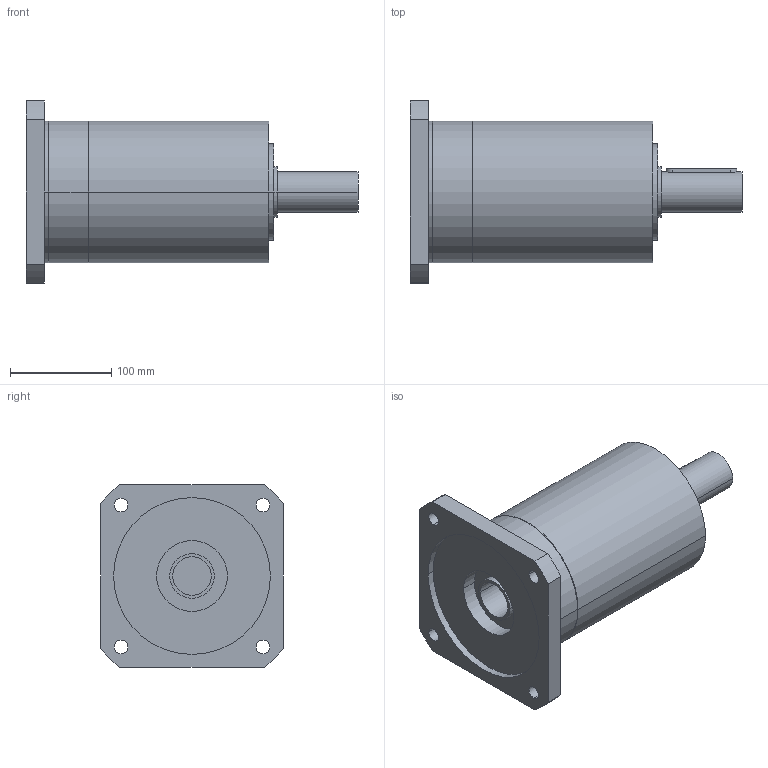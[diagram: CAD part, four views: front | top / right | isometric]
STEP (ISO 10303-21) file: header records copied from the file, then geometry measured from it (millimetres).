
FILE_DESCRIPTION(('CoCreate Modeling STEP Export'),'2;1');
FILE_NAME('GPR150_ig-9-12-16-20-28-35_40_B14_38_P11.stp','2014-08-19T17:04:36',(''),(''),'CoCreate Modeling STEP processor for AP214 (Solid Model)','CoCreate Modeling 16.00C 25-Feb-2009 (C) Parametric Technology GmbH','');
FILE_SCHEMA(('AUTOMOTIVE_DESIGN { 1 0 10303 214 1 1 1 1 }'));
Length unit declared in the file: millimetre
Products named in the file (2): GPR150_ig-9-12-16-20-28-35_40_B14_38_P11
Assembly tree (1 placements, depth 2):
  GPR150_ig-9-12-16-20-28-35_40_B14_38_P11
    GPR150_ig-9-12-16-20-28-35_40_B14_38_P11
Bounding box: 328 x 180 x 180 mm (x, y, z)
Volume: 3844608.8 mm3; surface area: 210217.1 mm2
Topology: 1 solids, 1 shells, 73 faces, 196 edges, 138 vertices
Faces by surface type: cylinder 44, plane 23, cone 6
Entity records: 2038 total; most frequent: CARTESIAN_POINT 396, ORIENTED_EDGE 388, DIRECTION 272, EDGE_CURVE 194, VERTEX_POINT 138, AXIS2_PLACEMENT_3D 102, EDGE_LOOP 96, FACE_OUTER_BOUND 73
